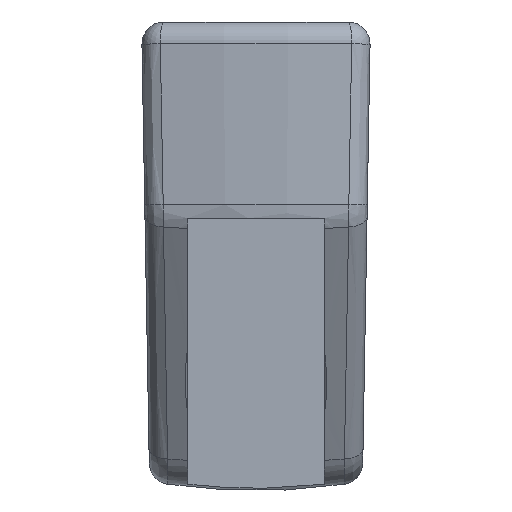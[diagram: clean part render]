
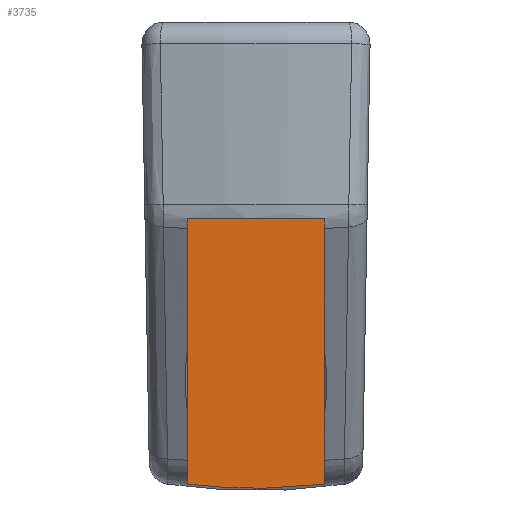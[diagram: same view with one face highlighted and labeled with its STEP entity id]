
A CAD part, left-side view. The second image highlights one B-rep face of the part: STEP entity #3735.
In plain terms, the highlighted planar face has unit normal (-1, 0, 0).
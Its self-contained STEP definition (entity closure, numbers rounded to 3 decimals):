
#827=CARTESIAN_POINT('',(-42.5,4.25,-42.405));
#828=CARTESIAN_POINT('',(-42.5,5.636,-42.57));
#829=CARTESIAN_POINT('',(-42.5,8.41,-42.789));
#830=CARTESIAN_POINT('',(-42.5,12.593,-42.789));
#831=CARTESIAN_POINT('',(-42.5,15.365,-42.57));
#832=CARTESIAN_POINT('',(-42.5,16.75,-42.405));
#1208=DIRECTION('',(0.,1.,0.));
#1209=VECTOR('',#1208,6.25);
#1210=CARTESIAN_POINT('',(-42.5,10.5,-18.));
#1211=LINE('',#1210,#1209);
#1243=DIRECTION('',(0.,1.,0.));
#1244=VECTOR('',#1243,6.25);
#1245=CARTESIAN_POINT('',(-42.5,4.25,-18.));
#1246=LINE('',#1245,#1244);
#1275=DIRECTION('',(0.,0.,1.));
#1276=VECTOR('',#1275,24.405);
#1277=CARTESIAN_POINT('',(-42.5,16.75,-42.405));
#1278=LINE('',#1277,#1276);
#1283=DIRECTION('',(0.,0.,1.));
#1284=VECTOR('',#1283,24.405);
#1285=CARTESIAN_POINT('',(-42.5,4.25,-42.405));
#1286=LINE('',#1285,#1284);
#1371=CARTESIAN_POINT('',(-42.5,4.25,-42.405));
#1373=VERTEX_POINT('',#1371);
#1375=VERTEX_POINT('',#832);
#1384=CARTESIAN_POINT('',(-42.5,4.25,-18.));
#1385=VERTEX_POINT('',#1384);
#1386=CARTESIAN_POINT('',(-42.5,16.75,-18.));
#1387=VERTEX_POINT('',#1386);
#1428=CARTESIAN_POINT('',(-42.5,10.5,-18.));
#1430=VERTEX_POINT('',#1428);
#3722=CARTESIAN_POINT('',(-42.5,4.25,-43.));
#3723=DIRECTION('',(1.,0.,0.));
#3724=DIRECTION('',(0.,1.,0.));
#3725=AXIS2_PLACEMENT_3D('',#3722,#3723,#3724);
#3726=PLANE('',#3725);
#3727=ORIENTED_EDGE('',*,*,#3614,.F.);
#3729=ORIENTED_EDGE('',*,*,#3728,.F.);
#3730=ORIENTED_EDGE('',*,*,#2789,.T.);
#3731=ORIENTED_EDGE('',*,*,#3703,.T.);
#3732=ORIENTED_EDGE('',*,*,#3581,.F.);
#3733=EDGE_LOOP('',(#3727,#3729,#3730,#3731,#3732));
#3734=FACE_OUTER_BOUND('',#3733,.F.);
#3735=ADVANCED_FACE('',(#3734),#3726,.F.);
#833=B_SPLINE_CURVE_WITH_KNOTS('',3,(#827,#828,#829,#830,#831,#832),
.UNSPECIFIED.,.F.,.F.,(4,1,1,4),(0.,0.333,0.667,1.),
.UNSPECIFIED.);
#2789=EDGE_CURVE('',#1373,#1375,#833,.T.);
#3581=EDGE_CURVE('',#1430,#1387,#1211,.T.);
#3614=EDGE_CURVE('',#1385,#1430,#1246,.T.);
#3703=EDGE_CURVE('',#1375,#1387,#1278,.T.);
#3728=EDGE_CURVE('',#1373,#1385,#1286,.T.);
